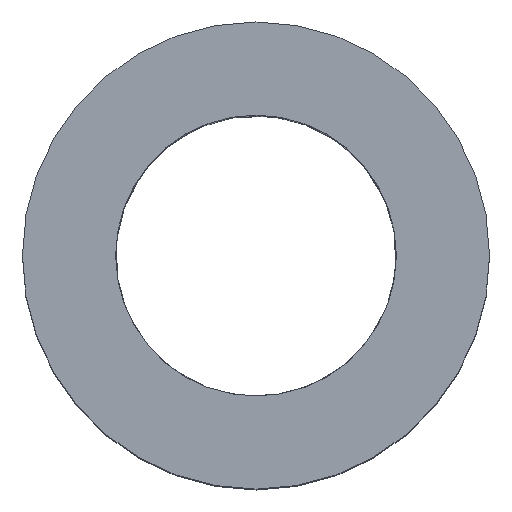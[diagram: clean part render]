
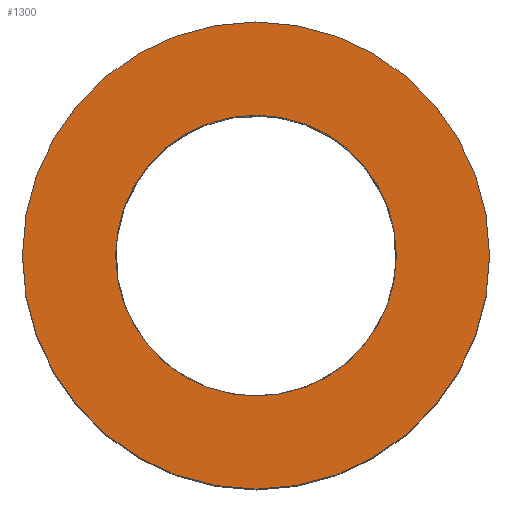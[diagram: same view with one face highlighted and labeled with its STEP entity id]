
A CAD part, top view. The second image highlights one B-rep face of the part: STEP entity #1300.
In plain terms, the highlighted planar face has unit normal (0, 0, 1).
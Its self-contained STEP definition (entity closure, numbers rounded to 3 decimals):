
#34=FACE_BOUND('',#482,.T.);
#303=PLANE('',#1411);
#381=FACE_OUTER_BOUND('',#481,.T.);
#481=EDGE_LOOP('',(#1198));
#482=EDGE_LOOP('',(#1199));
#554=CIRCLE('',#1410,25.85);
#555=CIRCLE('',#1412,43.);
#673=VERTEX_POINT('',#2883);
#674=VERTEX_POINT('',#2887);
#849=EDGE_CURVE('',#673,#673,#554,.T.);
#850=EDGE_CURVE('',#674,#674,#555,.T.);
#1198=ORIENTED_EDGE('',*,*,#850,.F.);
#1199=ORIENTED_EDGE('',*,*,#849,.T.);
#1300=ADVANCED_FACE('',(#381,#34),#303,.T.);
#1410=AXIS2_PLACEMENT_3D('',#2885,#1594,#1595);
#1411=AXIS2_PLACEMENT_3D('',#2886,#1596,#1597);
#1412=AXIS2_PLACEMENT_3D('',#2888,#1598,#1599);
#1594=DIRECTION('center_axis',(0.,0.,
-1.));
#1595=DIRECTION('ref_axis',(0.,1.,0.));
#1596=DIRECTION('center_axis',(0.,0.,
1.));
#1597=DIRECTION('ref_axis',(0.,1.,0.));
#1598=DIRECTION('center_axis',(0.,0.,
-1.));
#1599=DIRECTION('ref_axis',(0.,1.,0.));
#2883=CARTESIAN_POINT('',(25.85,0.,60.216));
#2885=CARTESIAN_POINT('Origin',(0.,0.,
60.216));
#2886=CARTESIAN_POINT('Origin',(-43.,0.,60.216));
#2887=CARTESIAN_POINT('',(43.,0.,60.216));
#2888=CARTESIAN_POINT('Origin',(0.,0.,
60.216));
